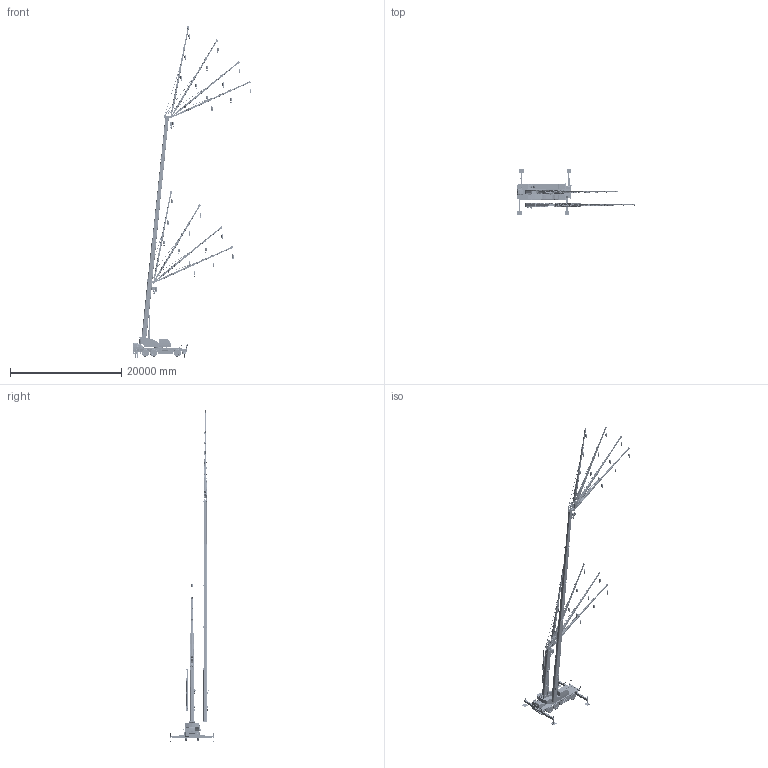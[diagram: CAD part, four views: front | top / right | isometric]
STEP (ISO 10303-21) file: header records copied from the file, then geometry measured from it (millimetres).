
FILE_DESCRIPTION(('CATIA V5 STEP Exchange','CAx-IF Rec.Pracs.--- Model Styling and Organization---1.4--- 2014-01-23'),'2;1');
FILE_NAME('\\Iba001\cad\CR\HP用CADデータ\21A\STP\SL-600Rf2 3D.stp','2022-01-05T07:42:06+00:00',('none'),('none'),'CATIA Version 5-6 Release 2017 SP5 HF78','CATIA V5 STEP AP214','none');
FILE_SCHEMA(('AUTOMOTIVE_DESIGN { 1 0 10303 214 1 1 1 1 }'));
Products named in the file (50): SL-600Rf2 3D; SL-600Rf2 UPPER; SL-600Rf2 UPPER STRUCTURE; SL-600Rf2 TABLE; SL-600Rf2 CAB; SL-600Rf2 MACHINE ROOM; SL-600Rf2 DERRICK CYLINDER-1; SL-600Rf2 DERRICK CYLINDER-2; SL-600Rf2 BOOM JIB Min; SL-600Rf2 BOOM Min; SL-600Rf2 BOOM1; SL-600Rf2 BOOM2; SL-600Rf2 BOOM3; SL-600Rf2 BOOM4; SL-600Rf2 BOOM5; SL-600Rf2 JIB; SL-600Rf2 JIB 8.92m 5deg; SL-600Rf2 JIB1; SL-600Rf2 JIB2; SL-600Rf2 JIB3; SL-600Rf2 JIB4; SL-600Rf2 JIB TENSION ROD; SL-600Rf2 JIB 8.92m 25deg; SL-600Rf2 JIB 8.92m 45deg; SL-600Rf2 JIB 8.92m 60deg; SL-600Rf2 JIB 12.7m 5deg; SL-600Rf2 JIB 12.7m 25deg; SL-600Rf2 JIB 12.7m 45deg; SL-600Rf2 JIB 12.7m 60deg; SL-600Rf2 JIB 16.5m 5deg; SL-600Rf2 JIB 16.5m 25deg; SL-600Rf2 JIB 16.5m 45deg; SL-600Rf2 JIB 16.5m 60deg; SL-600Rf2 JIB Stowed; SL-600Rf2 JIB TENSION ROD Stowed; SL-600Rf2 HOOK 5.6t; SL-600Rf2 HOOK 34t; SL-600Rf2 HOOK 60t; SL-600Rf2 BOOM JIB Max; SL-600Rf2 BOOM Max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
Assembly tree (149 placements, depth 6):
  SL-600Rf2 3D
    SL-600Rf2 UPPER
      SL-600Rf2 UPPER STRUCTURE
        SL-600Rf2 TABLE
        SL-600Rf2 CAB
        SL-600Rf2 MACHINE ROOM
        SL-600Rf2 DERRICK CYLINDER-1
        SL-600Rf2 DERRICK CYLINDER-2
      SL-600Rf2 BOOM JIB Min
        SL-600Rf2 BOOM Min
          SL-600Rf2 BOOM1
          SL-600Rf2 BOOM2
          SL-600Rf2 BOOM3
          SL-600Rf2 BOOM4
          SL-600Rf2 BOOM5
        SL-600Rf2 JIB
          SL-600Rf2 JIB 8.92m 5deg
            SL-600Rf2 JIB1
            SL-600Rf2 JIB2
            SL-600Rf2 JIB3
            SL-600Rf2 JIB4
            SL-600Rf2 JIB TENSION ROD
          SL-600Rf2 JIB 8.92m 25deg
            SL-600Rf2 JIB1
            SL-600Rf2 JIB2
            SL-600Rf2 JIB3
            SL-600Rf2 JIB4
            SL-600Rf2 JIB TENSION ROD
          SL-600Rf2 JIB 8.92m 45deg
            SL-600Rf2 JIB1
            SL-600Rf2 JIB2
            SL-600Rf2 JIB3
            SL-600Rf2 JIB4
            SL-600Rf2 JIB TENSION ROD
          SL-600Rf2 JIB 8.92m 60deg
            SL-600Rf2 JIB1
            SL-600Rf2 JIB2
            SL-600Rf2 JIB3
            SL-600Rf2 JIB4
            SL-600Rf2 JIB TENSION ROD
          SL-600Rf2 JIB 12.7m 5deg
            SL-600Rf2 JIB1
            SL-600Rf2 JIB2
            SL-600Rf2 JIB3
            SL-600Rf2 JIB4
            SL-600Rf2 JIB TENSION ROD
          SL-600Rf2 JIB 12.7m 25deg
            SL-600Rf2 JIB1
            SL-600Rf2 JIB2
            SL-600Rf2 JIB3
            SL-600Rf2 JIB4
            SL-600Rf2 JIB TENSION ROD
          SL-600Rf2 JIB 12.7m 45deg
            SL-600Rf2 JIB1
            SL-600Rf2 JIB2
            SL-600Rf2 JIB3
            SL-600Rf2 JIB4
            SL-600Rf2 JIB TENSION ROD
          SL-600Rf2 JIB 12.7m 60deg
            SL-600Rf2 JIB1
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Bounding box: 21272.89 x 8400 x 59790.13 mm (x, y, z)
Volume: 100637975347.5 mm3; surface area: 1200516076.1 mm2
Topology: 281 solids, 286 shells, 28868 faces, 78751 edges, 51272 vertices
Faces by surface type: plane 18581, cylinder 6501, extrusion 2087, torus 1195, bspline 318, cone 169, sphere 16, revolution 1
Entity records: 182550 total; most frequent: CARTESIAN_POINT 69204, ORIENTED_EDGE 26234, DIRECTION 17414, EDGE_CURVE 13117, VECTOR 8611, VERTEX_POINT 8552, LINE 8096, AXIS2_PLACEMENT_3D 5524
